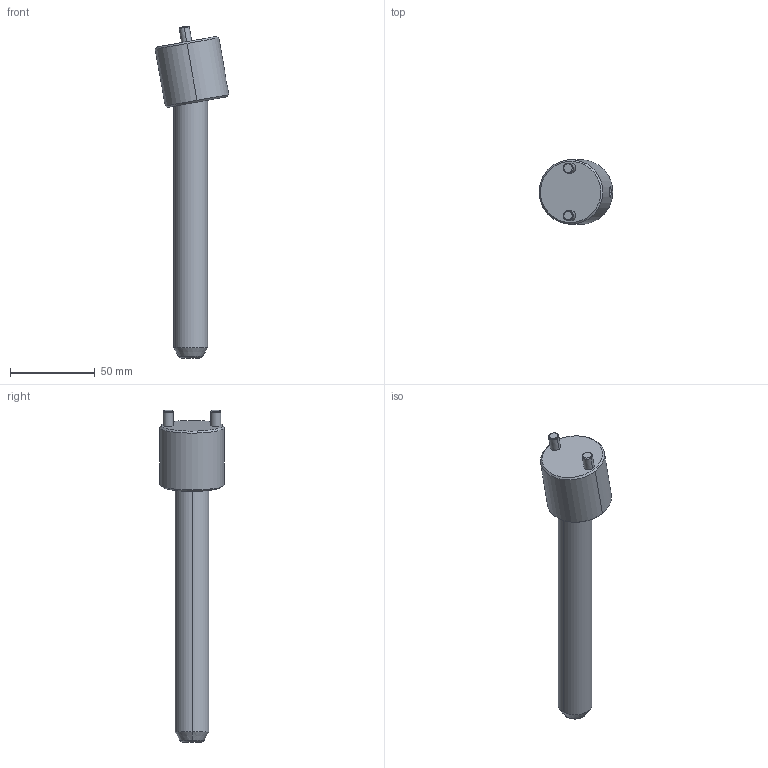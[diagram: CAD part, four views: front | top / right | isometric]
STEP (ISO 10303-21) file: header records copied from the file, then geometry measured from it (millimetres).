
FILE_DESCRIPTION(('CATIA V5 STEP Exchange'),'2;1');
FILE_NAME('C:\Users\Raffaele\Desktop\3D BOLEX\3D FILES CF BOLEX\19-INCLINED ASSEMBLY REF_CI\CI1020150.stp','2019-06-21T13:55:49+00:00',('none'),('none'),'CATIA Version 5 Release 20 GA (IN-10)','CATIA V5 STEP AP203','none');
FILE_SCHEMA(('CONFIG_CONTROL_DESIGN'));
Length unit declared in the file: millimetre
Products named in the file (1): CI1020150
Assembly tree (2 placements, depth 2):
  CI1020150
    #58
    #572
Bounding box: 43.33 x 38 x 195.45 mm (x, y, z)
Volume: 87218.1 mm3; surface area: 20595.8 mm2
Topology: 2 solids, 2 shells, 39 faces, 82 edges, 47 vertices
Faces by surface type: cone 14, cylinder 14, plane 7, torus 4
Entity records: 1494 total; most frequent: CARTESIAN_POINT 635, ORIENTED_EDGE 160, DIRECTION 145, EDGE_CURVE 80, AXIS2_PLACEMENT_3D 72, VERTEX_POINT 47, EDGE_LOOP 43, ADVANCED_FACE 39
